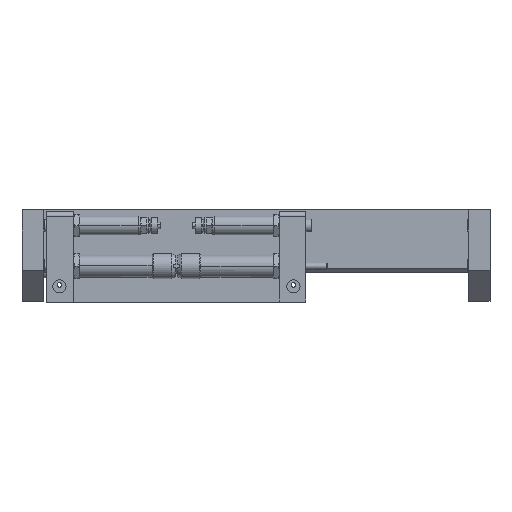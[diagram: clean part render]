
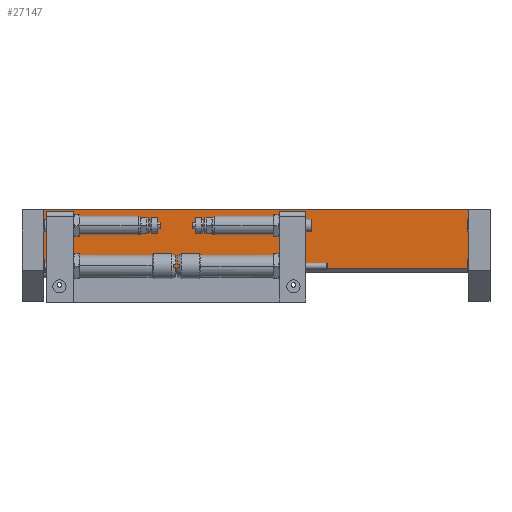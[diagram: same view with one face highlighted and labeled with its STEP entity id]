
A CAD part, left-side view. The second image highlights one B-rep face of the part: STEP entity #27147.
In plain terms, the highlighted planar face has unit normal (-1, 0, 0).
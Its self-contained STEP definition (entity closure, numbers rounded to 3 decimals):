
#16979=CARTESIAN_POINT('',(-60.0,-272.0,-38.));
#16980=VERTEX_POINT('',#16979);
#16981=CARTESIAN_POINT('',(-60.0,-272.0,-0.5));
#16982=VERTEX_POINT('',#16981);
#16983=CARTESIAN_POINT('',(-60.0,-272.0,-38.));
#16984=DIRECTION('',(0.0,0.0,1.0));
#16985=VECTOR('',#16984,37.5);
#16986=LINE('',#16983,#16985);
#16987=EDGE_CURVE('',#16980,#16982,#16986,.T.);
#18738=CARTESIAN_POINT('',(-60.0,-272.0,0.0));
#18739=VERTEX_POINT('',#18738);
#18746=CARTESIAN_POINT('',(-60.0,-272.0,-0.5));
#18747=DIRECTION('',(0.0,0.0,1.0));
#18748=VECTOR('',#18747,0.5);
#18749=LINE('',#18746,#18748);
#18750=EDGE_CURVE('',#16982,#18739,#18749,.T.);
#21181=CARTESIAN_POINT('',(-60.0,0.,-0.5));
#21182=VERTEX_POINT('',#21181);
#21183=CARTESIAN_POINT('',(-60.0,0.0,-38.));
#21184=VERTEX_POINT('',#21183);
#21185=CARTESIAN_POINT('',(-60.0,0.,-0.5));
#21186=DIRECTION('',(0.0,0.0,-1.0));
#21187=VECTOR('',#21186,37.5);
#21188=LINE('',#21185,#21187);
#21189=EDGE_CURVE('',#21182,#21184,#21188,.T.);
#23480=CARTESIAN_POINT('',(-60.0,0.0,0.0));
#23481=VERTEX_POINT('',#23480);
#23482=CARTESIAN_POINT('',(-60.0,0.0,0.0));
#23483=DIRECTION('',(0.0,0.0,-1.0));
#23484=VECTOR('',#23483,0.5);
#23485=LINE('',#23482,#23484);
#23486=EDGE_CURVE('',#23481,#21182,#23485,.T.);
#27118=CARTESIAN_POINT('',(-60.0,0.0,-38.));
#27119=DIRECTION('',(0.0,-1.0,0.0));
#27120=VECTOR('',#27119,272.0);
#27121=LINE('',#27118,#27120);
#27122=EDGE_CURVE('',#21184,#16980,#27121,.T.);
#27129=CARTESIAN_POINT('',(-60.0,0.0,-38.));
#27130=DIRECTION('',(-1.0,0.0,0.0));
#27131=DIRECTION('',(0.0,0.0,1.0));
#27132=AXIS2_PLACEMENT_3D('',#27129,#27130,#27131);
#27133=PLANE('',#27132);
#27134=ORIENTED_EDGE('',*,*,#16987,.T.);
#27135=ORIENTED_EDGE('',*,*,#18750,.T.);
#27136=CARTESIAN_POINT('',(-60.0,0.0,0.0));
#27137=DIRECTION('',(0.0,-1.0,0.0));
#27138=VECTOR('',#27137,272.0);
#27139=LINE('',#27136,#27138);
#27140=EDGE_CURVE('',#23481,#18739,#27139,.T.);
#27141=ORIENTED_EDGE('',*,*,#27140,.F.);
#27142=ORIENTED_EDGE('',*,*,#23486,.T.);
#27143=ORIENTED_EDGE('',*,*,#21189,.T.);
#27144=ORIENTED_EDGE('',*,*,#27122,.T.);
#27145=EDGE_LOOP('',(#27134,#27135,#27141,#27142,#27143,#27144));
#27146=FACE_OUTER_BOUND('',#27145,.T.);
#27147=ADVANCED_FACE('',(#27146),#27133,.T.);
